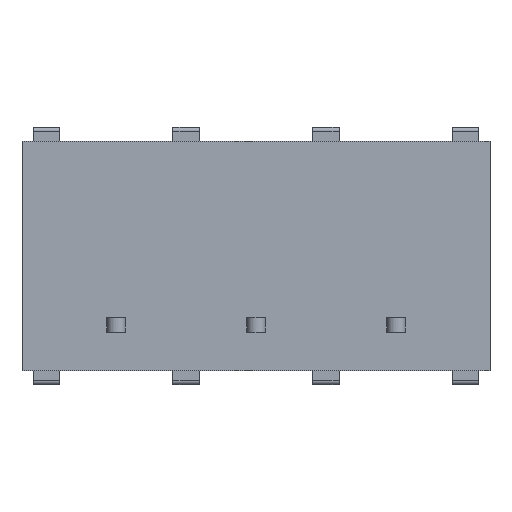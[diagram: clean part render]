
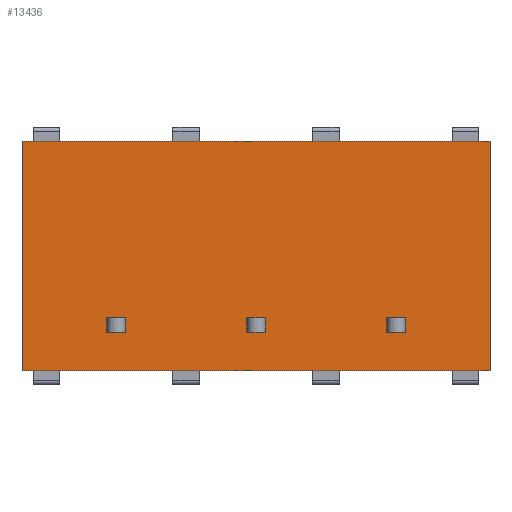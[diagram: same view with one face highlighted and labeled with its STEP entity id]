
A CAD part, front view. The second image highlights one B-rep face of the part: STEP entity #13436.
In plain terms, the highlighted planar face has unit normal (0, -1, 0).
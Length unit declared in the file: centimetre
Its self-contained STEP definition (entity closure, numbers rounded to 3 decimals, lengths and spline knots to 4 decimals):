
#883=VERTEX_POINT('',#17057);
#884=VERTEX_POINT('',#17058);
#887=VERTEX_POINT('',#17066);
#904=VERTEX_POINT('',#17107);
#1239=VERTEX_POINT('',#18616);
#1240=VERTEX_POINT('',#18618);
#1408=VERTEX_POINT('',#19212);
#1409=VERTEX_POINT('',#19213);
#1416=VERTEX_POINT('',#19229);
#1430=VERTEX_POINT('',#19261);
#1611=VERTEX_POINT('',#19911);
#1612=VERTEX_POINT('',#19912);
#1619=VERTEX_POINT('',#19928);
#1633=VERTEX_POINT('',#19960);
#2063=VERTEX_POINT('',#21756);
#2064=VERTEX_POINT('',#21758);
#2199=VECTOR('',#14270,1.);
#2202=VECTOR('',#14276,1.);
#2221=VECTOR('',#14303,1.);
#2223=VECTOR('',#14306,1.);
#2626=VECTOR('',#14860,1.);
#2796=VECTOR('',#15251,1.);
#2804=VECTOR('',#15260,1.);
#2818=VECTOR('',#15280,1.);
#2821=VECTOR('',#15288,1.);
#3012=VECTOR('',#15722,1.);
#3020=VECTOR('',#15731,1.);
#3034=VECTOR('',#15751,1.);
#3037=VECTOR('',#15759,1.);
#3559=VECTOR('',#16538,1.);
#3563=VECTOR('',#16544,1.);
#3564=VECTOR('',#16546,1.);
#3703=LINE('',#17056,#2199);
#3706=LINE('',#17065,#2202);
#3725=LINE('',#17106,#2221);
#3727=LINE('',#17110,#2223);
#4130=LINE('',#18617,#2626);
#4300=LINE('',#19211,#2796);
#4308=LINE('',#19228,#2804);
#4322=LINE('',#19260,#2818);
#4325=LINE('',#19268,#2821);
#4516=LINE('',#19910,#3012);
#4524=LINE('',#19927,#3020);
#4538=LINE('',#19959,#3034);
#4541=LINE('',#19967,#3037);
#5063=LINE('',#21757,#3559);
#5067=LINE('',#21764,#3563);
#5068=LINE('',#21766,#3564);
#5282=EDGE_CURVE('',#883,#884,#3703,.T.);
#5286=EDGE_CURVE('',#884,#887,#3706,.T.);
#5306=EDGE_CURVE('',#887,#904,#3725,.T.);
#5308=EDGE_CURVE('',#904,#883,#3727,.T.);
#5819=EDGE_CURVE('',#1240,#1239,#4130,.T.);
#6076=EDGE_CURVE('',#1408,#1409,#4300,.T.);
#6084=EDGE_CURVE('',#1416,#1408,#4308,.T.);
#6099=EDGE_CURVE('',#1409,#1430,#4322,.T.);
#6103=EDGE_CURVE('',#1430,#1416,#4325,.T.);
#6385=EDGE_CURVE('',#1611,#1612,#4516,.T.);
#6393=EDGE_CURVE('',#1619,#1611,#4524,.T.);
#6408=EDGE_CURVE('',#1612,#1633,#4538,.T.);
#6412=EDGE_CURVE('',#1633,#1619,#4541,.T.);
#7066=EDGE_CURVE('',#2064,#2063,#5063,.T.);
#7070=EDGE_CURVE('',#1239,#2064,#5067,.T.);
#7071=EDGE_CURVE('',#1240,#2063,#5068,.T.);
#11038=ORIENTED_EDGE('',*,*,#5306,.F.);
#11039=ORIENTED_EDGE('',*,*,#5286,.F.);
#11040=ORIENTED_EDGE('',*,*,#5282,.F.);
#11041=ORIENTED_EDGE('',*,*,#5308,.F.);
#11042=ORIENTED_EDGE('',*,*,#6084,.T.);
#11043=ORIENTED_EDGE('',*,*,#6076,.T.);
#11044=ORIENTED_EDGE('',*,*,#6099,.T.);
#11045=ORIENTED_EDGE('',*,*,#6103,.T.);
#11046=ORIENTED_EDGE('',*,*,#6393,.T.);
#11047=ORIENTED_EDGE('',*,*,#6385,.T.);
#11048=ORIENTED_EDGE('',*,*,#6408,.T.);
#11049=ORIENTED_EDGE('',*,*,#6412,.T.);
#11050=ORIENTED_EDGE('',*,*,#7066,.T.);
#11051=ORIENTED_EDGE('',*,*,#7071,.F.);
#11052=ORIENTED_EDGE('',*,*,#5819,.T.);
#11053=ORIENTED_EDGE('',*,*,#7070,.T.);
#11881=EDGE_LOOP('',(#11038,#11039,#11040,#11041));
#11882=EDGE_LOOP('',(#11042,#11043,#11044,#11045));
#11883=EDGE_LOOP('',(#11046,#11047,#11048,#11049));
#11884=EDGE_LOOP('',(#11050,#11051,#11052,#11053));
#12689=FACE_BOUND('',#11881,.T.);
#12690=FACE_BOUND('',#11882,.T.);
#12691=FACE_BOUND('',#11883,.T.);
#12692=FACE_BOUND('',#11884,.T.);
#13436=ADVANCED_FACE('',(#12689,#12690,#12691,#12692),#13957,.T.);
#13957=PLANE('',#22577);
#14270=DIRECTION('',(-1.,0.,0.));
#14276=DIRECTION('',(0.,0.,-1.));
#14303=DIRECTION('',(1.,0.,0.));
#14306=DIRECTION('',(0.,0.,1.));
#14860=DIRECTION('',(0.,0.,1.));
#15251=DIRECTION('',(0.,0.,1.));
#15260=DIRECTION('',(-1.,0.,0.));
#15280=DIRECTION('',(1.,0.,0.));
#15288=DIRECTION('',(0.,0.,-1.));
#15722=DIRECTION('',(0.,0.,1.));
#15731=DIRECTION('',(-1.,0.,0.));
#15751=DIRECTION('',(1.,0.,0.));
#15759=DIRECTION('',(0.,0.,-1.));
#16538=DIRECTION('',(0.,0.,-1.));
#16544=DIRECTION('',(-1.,0.,0.));
#16545=DIRECTION('',(0.,-1.,0.));
#16546=DIRECTION('',(-1.,0.,0.));
#17056=CARTESIAN_POINT('',(-0.465,0.,-0.335));
#17057=CARTESIAN_POINT('',(-0.26,0.,-0.335));
#17058=CARTESIAN_POINT('',(-0.36,0.,-0.335));
#17065=CARTESIAN_POINT('',(-0.36,0.,-0.1875));
#17066=CARTESIAN_POINT('',(-0.36,0.,-0.415));
#17106=CARTESIAN_POINT('',(-0.465,0.,-0.415));
#17107=CARTESIAN_POINT('',(-0.26,0.,-0.415));
#17110=CARTESIAN_POINT('',(-0.26,0.,-0.1875));
#18616=CARTESIAN_POINT('',(1.726,0.,0.625));
#18617=CARTESIAN_POINT('',(1.726,0.,-0.625));
#18618=CARTESIAN_POINT('',(1.726,0.,-0.625));
#19211=CARTESIAN_POINT('',(1.164,0.,-0.1875));
#19212=CARTESIAN_POINT('',(1.164,0.,-0.415));
#19213=CARTESIAN_POINT('',(1.164,0.,-0.335));
#19228=CARTESIAN_POINT('',(0.607,0.,-0.415));
#19229=CARTESIAN_POINT('',(1.264,0.,-0.415));
#19260=CARTESIAN_POINT('',(0.607,0.,-0.335));
#19261=CARTESIAN_POINT('',(1.264,0.,-0.335));
#19268=CARTESIAN_POINT('',(1.264,0.,-0.1875));
#19910=CARTESIAN_POINT('',(0.402,0.,-0.1875));
#19911=CARTESIAN_POINT('',(0.402,0.,-0.415));
#19912=CARTESIAN_POINT('',(0.402,0.,-0.335));
#19927=CARTESIAN_POINT('',(0.226,0.,-0.415));
#19928=CARTESIAN_POINT('',(0.502,0.,-0.415));
#19959=CARTESIAN_POINT('',(0.226,0.,-0.335));
#19960=CARTESIAN_POINT('',(0.502,0.,-0.335));
#19967=CARTESIAN_POINT('',(0.502,0.,-0.1875));
#21756=CARTESIAN_POINT('',(-0.822,0.,-0.625));
#21757=CARTESIAN_POINT('',(-0.822,0.,0.625));
#21758=CARTESIAN_POINT('',(-0.822,0.,0.625));
#21764=CARTESIAN_POINT('',(-0.762,0.,0.625));
#21765=CARTESIAN_POINT('',(-0.762,0.,0.));
#21766=CARTESIAN_POINT('',(-0.762,0.,-0.625));
#22577=AXIS2_PLACEMENT_3D('',#21765,#16545,$);
